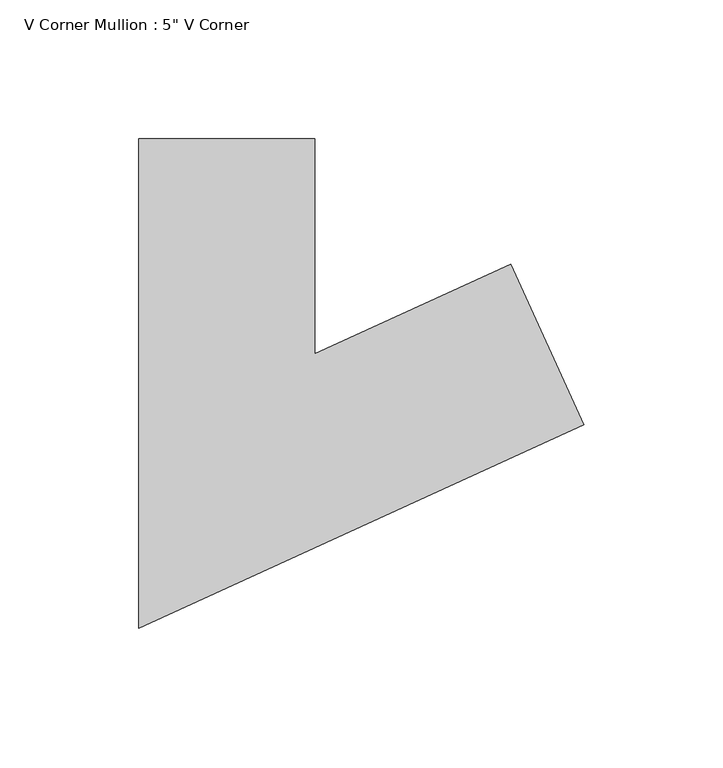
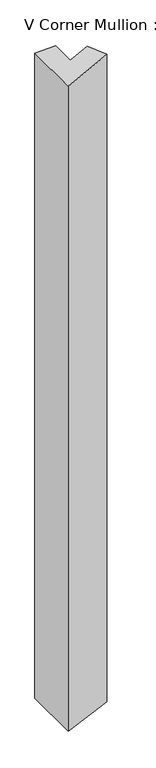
"""IFC4 building model written with IfcOpenShell, lengths in millimetres: member geometry."""

from ifc_helpers import new_model, si_unit, origin, place, context, project, spatial, faceted_brep, source, transform, mapped, element, save


def member_07dfde26(model_context):
    return source(origin(), model_context, "Body", "Brep", [
        faceted_brep([(61.49523, 18.2208415, 0.8757824), (87.9205542, -39.5195451, 1.2521178), (87.9205542, -39.5195451, -2090.4103949), (61.49523, 18.2208415, -2089.5155954), (-9.0228811, -14.0523047, -0.1284991), (-9.0228811, -14.0523047, -2087.1277507), (-9.0228811, 63.5, -0.1284991), (-9.0228811, 63.5, -2087.1277507), (-72.5228811, 63.5, -1.0328323), (-72.5228811, 63.5, -2084.9775494), (-72.5228811, -112.9476953, -1.0328323), (-72.5228811, -112.9476953, -2084.9775494)], [[[0, 1, 2, 3]], [[4, 0, 3, 5]], [[6, 4, 5, 7]], [[8, 6, 7, 9]], [[10, 8, 9, 11]], [[1, 10, 11, 2]], [[1, 0, 4, 6, 8, 10]], [[2, 11, 9, 7, 5, 3]]]),
    ])


if __name__ == "__main__":
    model = new_model("IFC4")
    model_context = context("Model", 3, world=origin())
    ifc_project = project(units=[si_unit("LENGTHUNIT", "METRE", prefix="MILLI")], contexts=[model_context])
    site = spatial("IfcSite", under=ifc_project)
    building = spatial("IfcBuilding", under=site)
    placement = place(None, origin())
    member_shape = member_07dfde26(model_context)
    element("IfcMember", 1, ObjectType="V Corner Mullion : 5\" V Corner", at=placement, inside=building, context=model_context, shape_type="MappedRepresentation", body=[
        mapped(member_shape, transform((0.0, 0.0, 0.0), x_axis=(1.0, 0.0, 0.0), y_axis=(0.0, 1.0, 0.0), z_axis=(0.0, 0.0, 1.0))),
    ])
    save(model, "model.ifc")
